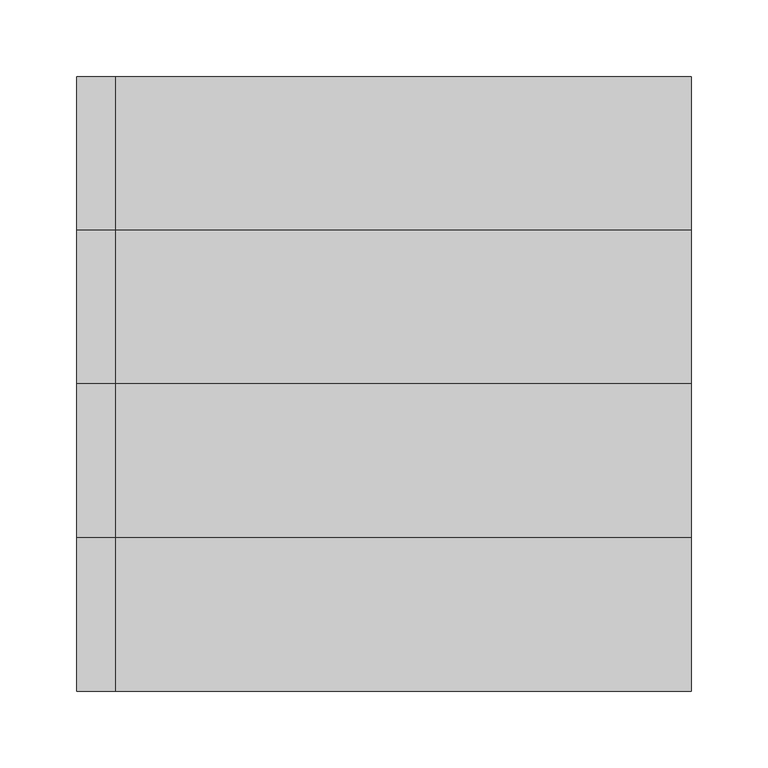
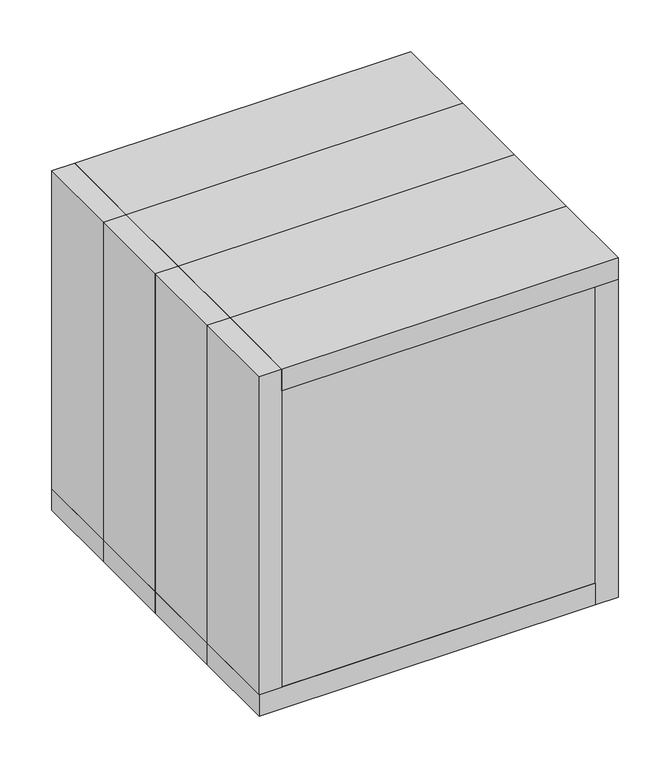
"""IFC4 building model written with IfcOpenShell, lengths in millimetres: furniture geometry, 1.7 Taburete bajo : 1.7 Taburete bajo."""

from ifc_helpers import new_model, si_unit, frame, origin, origin_with_axes, place, context, project, spatial, polyline, outline, extrude, source, transform, mapped, element, save


def furniture_bfd22e1b(model_context):
    return source(origin(), model_context, "Body", "SweptSolid", [
        extrude(outline(polyline([(200.0, -200.0), (-174.6, -200.0), (-174.6, -100.0), (200.0, -100.0), (200.0, -200.0)])), frame((0.0, 0.0, 374.6), z_axis=(0.0, 0.0, 1.0), x_axis=(1.0, 0.0, 0.0)), (0.0, 0.0, 1.0), 25.4),
        extrude(outline(polyline([(200.0, -100.0), (-174.6, -100.0), (-174.6, 0.0), (200.0, 0.0), (200.0, -100.0)])), frame((0.0, 0.0, 374.6), z_axis=(0.0, 0.0, 1.0), x_axis=(1.0, 0.0, 0.0)), (0.0, 0.0, 1.0), 25.4),
        extrude(outline(polyline([(200.0, 0.0), (-174.6, 0.0), (-174.6, 100.0), (200.0, 100.0), (200.0, 0.0)])), frame((0.0, 0.0, 374.6), z_axis=(0.0, 0.0, 1.0), x_axis=(1.0, 0.0, 0.0)), (0.0, 0.0, 1.0), 25.4),
        extrude(outline(polyline([(200.0, 100.0), (-174.6, 100.0), (-174.6, 200.0), (200.0, 200.0), (200.0, 100.0)])), frame((0.0, 0.0, 374.6), z_axis=(0.0, 0.0, 1.0), x_axis=(1.0, 0.0, 0.0)), (0.0, 0.0, 1.0), 25.4),
        extrude(outline(polyline([(-200.0, -100.0), (-174.6, -100.0), (-174.6, -200.0), (-200.0, -200.0), (-200.0, -100.0)])), frame((0.0, 0.0, 25.4), z_axis=(0.0, 0.0, 1.0), x_axis=(1.0, 0.0, 0.0)), (0.0, 0.0, 1.0), 374.6),
        extrude(outline(polyline([(-200.0, 0.0), (-174.6, 0.0), (-174.6, -100.0), (-200.0, -100.0), (-200.0, 0.0)])), frame((0.0, 0.0, 25.4), z_axis=(0.0, 0.0, 1.0), x_axis=(1.0, 0.0, 0.0)), (0.0, 0.0, 1.0), 374.6),
        extrude(outline(polyline([(-200.0, 100.0), (-174.6, 100.0), (-174.6, 0.0), (-200.0, 0.0), (-200.0, 100.0)])), frame((0.0, 0.0, 25.4), z_axis=(0.0, 0.0, 1.0), x_axis=(1.0, 0.0, 0.0)), (0.0, 0.0, 1.0), 374.6),
        extrude(outline(polyline([(-200.0, 200.0), (-174.6, 200.0), (-174.6, 100.0), (-200.0, 100.0), (-200.0, 200.0)])), frame((0.0, 0.0, 25.4), z_axis=(0.0, 0.0, 1.0), x_axis=(1.0, 0.0, 0.0)), (0.0, 0.0, 1.0), 374.6),
        extrude(outline(polyline([(174.6, -200.0), (-200.0, -200.0), (-200.0, -100.0), (174.6, -100.0), (174.6, -200.0)])), origin_with_axes(), (0.0, 0.0, 1.0), 25.4),
        extrude(outline(polyline([(174.6, -100.0), (-200.0, -100.0), (-200.0, 0.0), (174.6, 0.0), (174.6, -100.0)])), origin_with_axes(), (0.0, 0.0, 1.0), 25.4),
        extrude(outline(polyline([(174.6, 0.0), (-200.0, 0.0), (-200.0, 100.0), (174.6, 100.0), (174.6, 0.0)])), origin_with_axes(), (0.0, 0.0, 1.0), 25.4),
        extrude(outline(polyline([(174.6, 100.0), (-200.0, 100.0), (-200.0, 200.0), (174.6, 200.0), (174.6, 100.0)])), origin_with_axes(), (0.0, 0.0, 1.0), 25.4),
        extrude(outline(polyline([(174.6, -100.0), (200.0, -100.0), (200.0, -200.0), (174.6, -200.0), (174.6, -100.0)])), origin_with_axes(), (0.0, 0.0, 1.0), 374.6),
        extrude(outline(polyline([(174.6, 0.0), (200.0, 0.0), (200.0, -100.0), (174.6, -100.0), (174.6, 0.0)])), origin_with_axes(), (0.0, 0.0, 1.0), 374.6),
        extrude(outline(polyline([(174.6, 100.0), (200.0, 100.0), (200.0, 0.0), (174.6, 0.0), (174.6, 100.0)])), origin_with_axes(), (0.0, 0.0, 1.0), 374.6),
        extrude(outline(polyline([(174.6, 200.0), (200.0, 200.0), (200.0, 100.0), (174.6, 100.0), (174.6, 200.0)])), origin_with_axes(), (0.0, 0.0, 1.0), 374.6),
        extrude(outline(polyline([(-174.6, -174.6), (174.6, -174.6), (174.6, -200.0), (-174.6, -200.0), (-174.6, -174.6)])), frame((0.0, 0.0, 25.4), z_axis=(0.0, 0.0, 1.0), x_axis=(1.0, 0.0, 0.0)), (0.0, 0.0, 1.0), 349.2),
        extrude(outline(polyline([(174.6, -174.6), (149.2, -174.6), (149.2, -136.5), (174.6, -136.5), (174.6, -174.6)])), frame((0.0, 0.0, 25.4), z_axis=(0.0, 0.0, 1.0), x_axis=(1.0, 0.0, 0.0)), (0.0, 0.0, 1.0), 349.2),
        extrude(outline(polyline([(-149.2, -174.6), (-149.2, -136.5), (149.2, -136.5), (149.2, -174.6), (-149.2, -174.6)])), frame((0.0, 0.0, 349.2), z_axis=(0.0, 0.0, 1.0), x_axis=(1.0, 0.0, 0.0)), (0.0, 0.0, 1.0), 25.4),
        extrude(outline(polyline([(-149.2, -174.6), (-174.6, -174.6), (-174.6, -136.5), (-149.2, -136.5), (-149.2, -174.6)])), frame((0.0, 0.0, 25.4), z_axis=(0.0, 0.0, 1.0), x_axis=(1.0, 0.0, 0.0)), (0.0, 0.0, 1.0), 349.2),
        extrude(outline(polyline([(-149.2, -174.6), (-149.2, -136.5), (149.2, -136.5), (149.2, -174.6), (-149.2, -174.6)])), frame((0.0, 0.0, 25.4), z_axis=(0.0, 0.0, 1.0), x_axis=(1.0, 0.0, 0.0)), (0.0, 0.0, 1.0), 25.4),
        extrude(outline(polyline([(-174.6, 200.0), (174.6, 200.0), (174.6, 174.6), (-174.6, 174.6), (-174.6, 200.0)])), frame((0.0, 0.0, 25.4), z_axis=(0.0, 0.0, 1.0), x_axis=(1.0, 0.0, 0.0)), (0.0, 0.0, 1.0), 349.2),
        extrude(outline(polyline([(174.6, 136.5), (149.2, 136.5), (149.2, 174.6), (174.6, 174.6), (174.6, 136.5)])), frame((0.0, 0.0, 25.4), z_axis=(0.0, 0.0, 1.0), x_axis=(1.0, 0.0, 0.0)), (0.0, 0.0, 1.0), 349.2),
        extrude(outline(polyline([(149.2, 174.6), (149.2, 136.5), (-149.2, 136.5), (-149.2, 174.6), (149.2, 174.6)])), frame((0.0, 0.0, 349.2), z_axis=(0.0, 0.0, 1.0), x_axis=(1.0, 0.0, 0.0)), (0.0, 0.0, 1.0), 25.4),
        extrude(outline(polyline([(-149.2, 136.5), (-174.6, 136.5), (-174.6, 174.6), (-149.2, 174.6), (-149.2, 136.5)])), frame((0.0, 0.0, 25.4), z_axis=(0.0, 0.0, 1.0), x_axis=(1.0, 0.0, 0.0)), (0.0, 0.0, 1.0), 349.2),
        extrude(outline(polyline([(149.2, 174.6), (149.2, 136.5), (-149.2, 136.5), (-149.2, 174.6), (149.2, 174.6)])), frame((0.0, 0.0, 25.4), z_axis=(0.0, 0.0, 1.0), x_axis=(1.0, 0.0, 0.0)), (0.0, 0.0, 1.0), 25.4),
    ])


if __name__ == "__main__":
    model = new_model("IFC4")
    model_context = context("Model", 3, world=origin())
    ifc_project = project(units=[si_unit("LENGTHUNIT", "METRE", prefix="MILLI")], contexts=[model_context])
    site = spatial("IfcSite", under=ifc_project)
    building = spatial("IfcBuilding", under=site)
    placement = place(None, origin())
    furniture_shape = furniture_bfd22e1b(model_context)
    element("IfcFurniture", 1, ObjectType="1.7 Taburete bajo : 1.7 Taburete bajo", at=placement, inside=building, context=model_context, shape_type="MappedRepresentation", body=[
        mapped(furniture_shape, transform((0.0, 0.0, 0.0), x_axis=(1.0, 0.0, 0.0), y_axis=(0.0, 1.0, 0.0), z_axis=(0.0, 0.0, 1.0))),
    ])
    save(model, "model.ifc")
